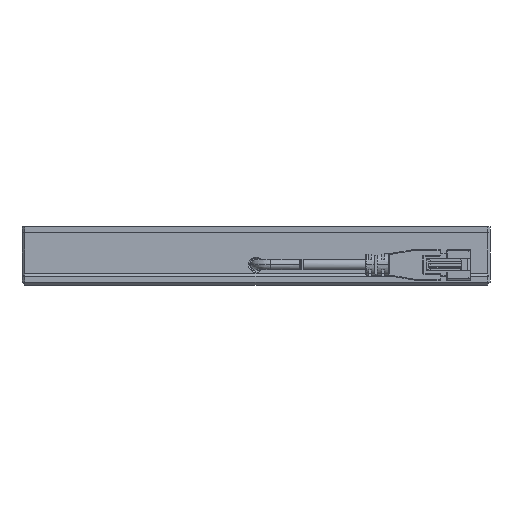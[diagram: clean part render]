
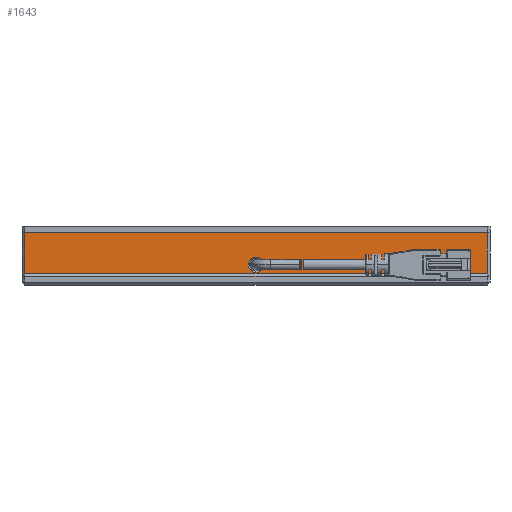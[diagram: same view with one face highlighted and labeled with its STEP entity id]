
A CAD part, front view. The second image highlights one B-rep face of the part: STEP entity #1643.
In plain terms, the highlighted planar face has unit normal (0, -1, 0).
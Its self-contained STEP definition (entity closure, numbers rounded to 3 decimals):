
#16 = EDGE_CURVE ( 'NONE', #896, #2275, #7819, .T. ) ;
#851 = AXIS2_PLACEMENT_3D ( 'NONE', #7230, #7858, #2459 ) ;
#896 = VERTEX_POINT ( 'NONE', #7029 ) ;
#927 = CIRCLE ( 'NONE', #3796, 2.65 ) ;
#1002 = ORIENTED_EDGE ( 'NONE', *, *, #3817, .T. ) ;
#1032 = EDGE_CURVE ( 'NONE', #8571, #2275, #1965, .T. ) ;
#1292 = ORIENTED_EDGE ( 'NONE', *, *, #1032, .T. ) ;
#1373 = CARTESIAN_POINT ( 'NONE',  ( 0., -105., 4.35 ) ) ;
#1643 = ADVANCED_FACE ( 'NONE', ( #4952, #1754 ), #3926, .F. ) ;
#1754 = FACE_OUTER_BOUND ( 'NONE', #2721, .T. ) ;
#1762 = VERTEX_POINT ( 'NONE', #1373 ) ;
#1965 = LINE ( 'NONE', #3824, #4321 ) ;
#2068 = VERTEX_POINT ( 'NONE', #8500 ) ;
#2111 = EDGE_CURVE ( 'NONE', #2068, #1762, #2804, .T. ) ;
#2275 = VERTEX_POINT ( 'NONE', #4248 ) ;
#2459 = DIRECTION ( 'NONE',  ( 0., 0., 1. ) ) ;
#2590 = CARTESIAN_POINT ( 'NONE',  ( -80., -105., 18. ) ) ;
#2667 = CARTESIAN_POINT ( 'NONE',  ( -79., -105., 18. ) ) ;
#2721 = EDGE_LOOP ( 'NONE', ( #5536, #1292, #7325, #1002 ) ) ;
#2804 = CIRCLE ( 'NONE', #851, 2.65 ) ;
#2998 = ORIENTED_EDGE ( 'NONE', *, *, #2111, .T. ) ;
#3104 = LINE ( 'NONE', #2667, #5018 ) ;
#3300 = DIRECTION ( 'NONE',  ( 1., 0., 0. ) ) ;
#3303 = LINE ( 'NONE', #6994, #4083 ) ;
#3617 = CARTESIAN_POINT ( 'NONE',  ( 79., -105., 4. ) ) ;
#3641 = ORIENTED_EDGE ( 'NONE', *, *, #4987, .T. ) ;
#3796 = AXIS2_PLACEMENT_3D ( 'NONE', #4145, #7665, #6280 ) ;
#3817 = EDGE_CURVE ( 'NONE', #896, #7987, #3104, .T. ) ;
#3824 = CARTESIAN_POINT ( 'NONE',  ( 79., -105., 18. ) ) ;
#3903 = DIRECTION ( 'NONE',  ( 0., 1., 0. ) ) ;
#3926 = PLANE ( 'NONE',  #6151 ) ;
#4083 = VECTOR ( 'NONE', #6957, 1000. ) ;
#4145 = CARTESIAN_POINT ( 'NONE',  ( 0., -105., 7. ) ) ;
#4248 = CARTESIAN_POINT ( 'NONE',  ( 79., -105., 18. ) ) ;
#4321 = VECTOR ( 'NONE', #7177, 1000. ) ;
#4474 = EDGE_CURVE ( 'NONE', #7987, #8571, #3303, .T. ) ;
#4581 = DIRECTION ( 'NONE',  ( 0., 0., 1. ) ) ;
#4709 = CARTESIAN_POINT ( 'NONE',  ( -79., -105., 4. ) ) ;
#4952 = FACE_BOUND ( 'NONE', #5707, .T. ) ;
#4987 = EDGE_CURVE ( 'NONE', #1762, #2068, #927, .T. ) ;
#5018 = VECTOR ( 'NONE', #6733, 1000. ) ;
#5273 = CARTESIAN_POINT ( 'NONE',  ( -80., -105., 18. ) ) ;
#5536 = ORIENTED_EDGE ( 'NONE', *, *, #4474, .T. ) ;
#5707 = EDGE_LOOP ( 'NONE', ( #3641, #2998 ) ) ;
#5905 = VECTOR ( 'NONE', #3300, 1000. ) ;
#6151 = AXIS2_PLACEMENT_3D ( 'NONE', #2590, #3903, #4581 ) ;
#6280 = DIRECTION ( 'NONE',  ( 0., 0., 1. ) ) ;
#6733 = DIRECTION ( 'NONE',  ( 0., 0., -1. ) ) ;
#6957 = DIRECTION ( 'NONE',  ( 1., 0., 0. ) ) ;
#6994 = CARTESIAN_POINT ( 'NONE',  ( -80., -105., 4. ) ) ;
#7029 = CARTESIAN_POINT ( 'NONE',  ( -79., -105., 18. ) ) ;
#7177 = DIRECTION ( 'NONE',  ( 0., 0., 1. ) ) ;
#7230 = CARTESIAN_POINT ( 'NONE',  ( 0., -105., 7. ) ) ;
#7325 = ORIENTED_EDGE ( 'NONE', *, *, #16, .F. ) ;
#7665 = DIRECTION ( 'NONE',  ( 0., 1., 0. ) ) ;
#7819 = LINE ( 'NONE', #5273, #5905 ) ;
#7858 = DIRECTION ( 'NONE',  ( 0., 1., 0. ) ) ;
#7987 = VERTEX_POINT ( 'NONE', #4709 ) ;
#8500 = CARTESIAN_POINT ( 'NONE',  ( 0., -105., 9.65 ) ) ;
#8571 = VERTEX_POINT ( 'NONE', #3617 ) ;
